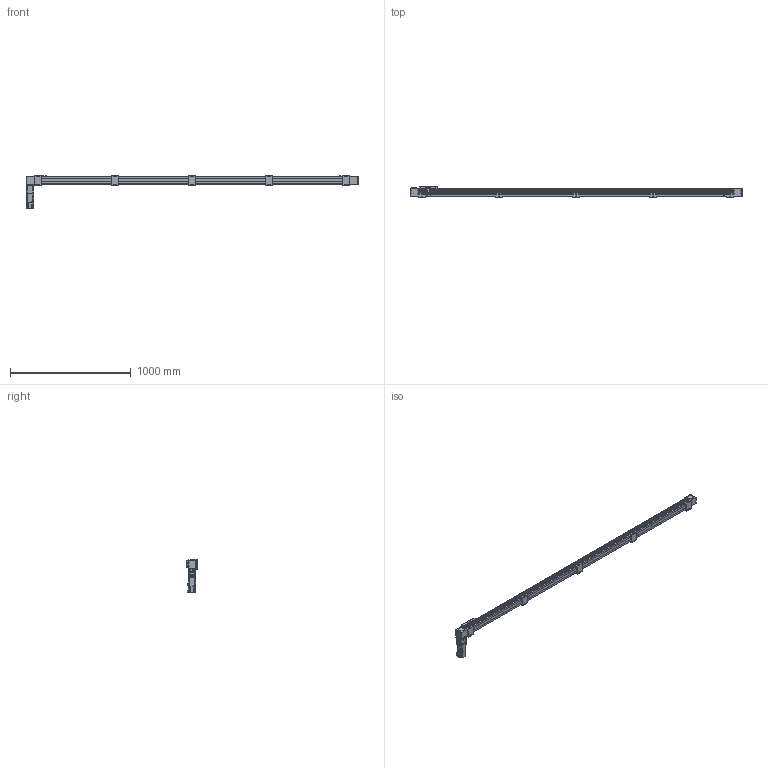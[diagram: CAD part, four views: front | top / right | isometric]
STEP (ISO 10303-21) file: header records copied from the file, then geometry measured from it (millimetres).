
FILE_DESCRIPTION(/* description */ ('STEP AP214'),/* implementation_level */ '2;1');
FILE_NAME(/* name */ 'SK60-P13-S2450-BR-T40-C1-N(0)',/* time_stamp */ '2023-04-06T04:03:04+02:00',/* author */ ('License CC BY-ND 4.0'),/* organization */ ('CADENAS'),/* preprocessor_version */ 'ST-DEVELOPER v19.3',/* originating_system */ 'PARTsolutions',/* authorisation */ ' ');
FILE_SCHEMA (('AUTOMOTIVE_DESIGN {1 0 10303 214 3 1 1}'));
Length unit declared in the file: millimetre
Products named in the file (11): SK60-P13-S2450-BR-T40-C1-N(0); PSC140-sensor; SK60-S450_seat; SK60-S450-BL-C1_slider; SK60_body3; SK60_body6; SK60-BL_body2; T40-p1; SK60_body5; SK60_body4; SK60-S2450-BR-C1_body
Assembly tree (20 placements, depth 2):
  SK60-P13-S2450-BR-T40-C1-N(0)
    PSC140-sensor  x3
    SK60-S450_seat  x5
    SK60-S450-BL-C1_slider
    SK60_body3  x3
    SK60_body6  x2
    SK60-BL_body2  x2
    T40-p1
    SK60_body5
    SK60_body4
    SK60-S2450-BR-C1_body
Bounding box: 2750 x 90 x 279.1 mm (x, y, z)
Volume: 9919763.5 mm3; surface area: 1209419.7 mm2
Topology: 20 solids, 24 shells, 966 faces, 2403 edges, 1586 vertices
Faces by surface type: plane 616, cylinder 314, cone 34, torus 2
Full cylindrical faces by diameter (mm): 2.8 x3, 3.3 x4, 4.2 x8, 4.5 x26, 4.6 x3, 4.917 x28, 5 x2, 5.478 x4, 5.5 x31, 6.5 x10, 8 x4, 8.5 x4, 9.988 x4, 10 x20, 13.556 x1, 14 x1, 14.586 x1, 19.692 x1, 38.432 x2, 43 x1, 44 x3, 47 x2, 50 x2
Entity records: 19395 total; most frequent: DIRECTION 3298, CARTESIAN_POINT 3292, ORIENTED_EDGE 3050, EDGE_CURVE 1525, AXIS2_PLACEMENT_3D 1103, LINE 1092, VECTOR 1092, VERTEX_POINT 1077
